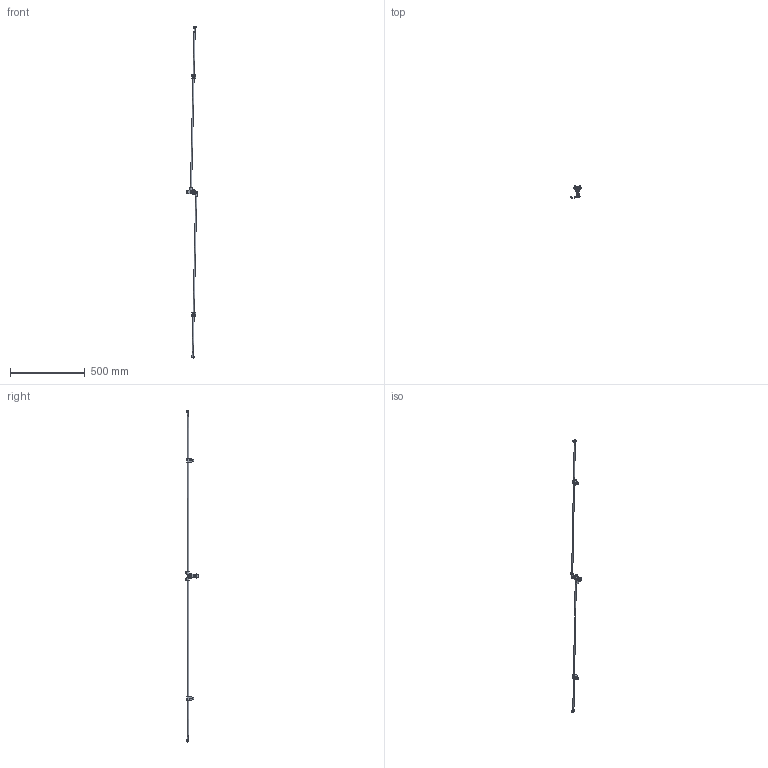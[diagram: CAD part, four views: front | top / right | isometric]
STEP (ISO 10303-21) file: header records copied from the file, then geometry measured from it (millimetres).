
FILE_DESCRIPTION((''),'2;1');
FILE_NAME('C:\Documents and Settings\Administrator\My Documents\Andys Backup Data\STEP LIBRARIES\MINITEC STEP LIBRARIES\HANDLES LOCKS STOPS\21.1798_2 ROD LOCK BOLT LOCK 32 TWO RODS.stp','2011-02-17T12:22:03',('Administrator'),(''),'Autodesk Inventor 2009','Autodesk Inventor 2009','');
FILE_SCHEMA(('AUTOMOTIVE_DESIGN { 1 0 10303 214 1 1 1 1 }'));
Length unit declared in the file: millimetre
Products named in the file (30): 21.1798_2 ROD LOCK BOLT LOCK 32 TWO RODS; 21.1087_6 BOLT LOCK 32 FOR FOUR FACED KEY_1; 1000-U229 HOUSING 50mm Zn BLACK; 1000-118; 1000-02; 1000-U1 7mm SQUARE CHROME INSERT; 1000-136_PRT; 1000-03_PRT; 1000-U166 50mm ADAPTOR; DIN3771_5X1_5; 1000-277-07; 1000-166; 1000-359 FINGER PULL; 21.1166 ROD LOCK CAM; 21.1166 CAM BODY SUBASSY; 21.1166 CAM BODY; 21.1166 CAM BODY PIN; 21.1170 CAM LOCK WASHER; 21.1167 ROD CAM ADAPTOR; 21.1167 ROD CAM ADAPTOR BODY; 21.1167 ROD CAM ADA M5X8; 21.1168 ROD LOCK ROD WITH ROLLER; 21.1168 ROD 1100mm; 21.1168 ROLLER; 21.1168 RIVIT; 21.1169_9 ROD GUIDE 24; 21.1169_9 Rod Guide 24 Base; 21.1169_9 Rod Guide 24 Cap; 21.1238  M6 x 16; 21.1330_2 M6 SQUARE NUT POS FXG
Assembly tree (37 placements, depth 4):
  21.1798_2 ROD LOCK BOLT LOCK 32 TWO RODS
    21.1087_6 BOLT LOCK 32 FOR FOUR FACED KEY_1
      1000-U229 HOUSING 50mm Zn BLACK
        1000-118
        1000-02
      1000-U1 7mm SQUARE CHROME INSERT
        1000-136_PRT
        1000-03_PRT
      1000-U166 50mm ADAPTOR
        DIN3771_5X1_5
        1000-277-07
        1000-166
      1000-359 FINGER PULL
    21.1166 ROD LOCK CAM
      21.1166 CAM BODY SUBASSY
        21.1166 CAM BODY
        21.1166 CAM BODY PIN  x2
      21.1170 CAM LOCK WASHER  x2
    21.1167 ROD CAM ADAPTOR  x2
      21.1167 ROD CAM ADAPTOR BODY
      21.1167 ROD CAM ADA M5X8
    21.1168 ROD LOCK ROD WITH ROLLER  x2
      21.1168 ROD 1100mm
      21.1168 ROLLER
      21.1168 RIVIT
    21.1169_9 ROD GUIDE 24  x2
      21.1169_9 Rod Guide 24 Base
      21.1169_9 Rod Guide 24 Cap
    21.1238  M6 x 16  x2
    21.1330_2 M6 SQUARE NUT POS FXG  x2
Bounding box: 72.32 x 84 x 2227.77 mm (x, y, z)
Volume: 168460.7 mm3; surface area: 108270.3 mm2
Topology: 33 solids, 34 shells, 887 faces, 2238 edges, 1455 vertices
Faces by surface type: plane 542, cylinder 267, cone 31, torus 23, bspline 20, sphere 4
Full cylindrical faces by diameter (mm): 4 x6, 4.2 x6, 4.3 x2, 5 x5, 5.5 x1, 6 x9, 6.2 x3, 6.6 x2, 7.5 x2, 8 x6, 8.4 x2, 9.9 x2, 10 x3, 10.2 x1, 12 x1, 12.8 x2, 13.5 x1, 15 x8, 15.2 x1, 16 x2, 16.1 x1, 19.8 x1, 22 x1, 32 x1
Entity records: 22042 total; most frequent: CARTESIAN_POINT 6002, DIRECTION 3220, ORIENTED_EDGE 3019, EDGE_CURVE 1511, AXIS2_PLACEMENT_3D 1145, VERTEX_POINT 1010, VECTOR 930, LINE 930
